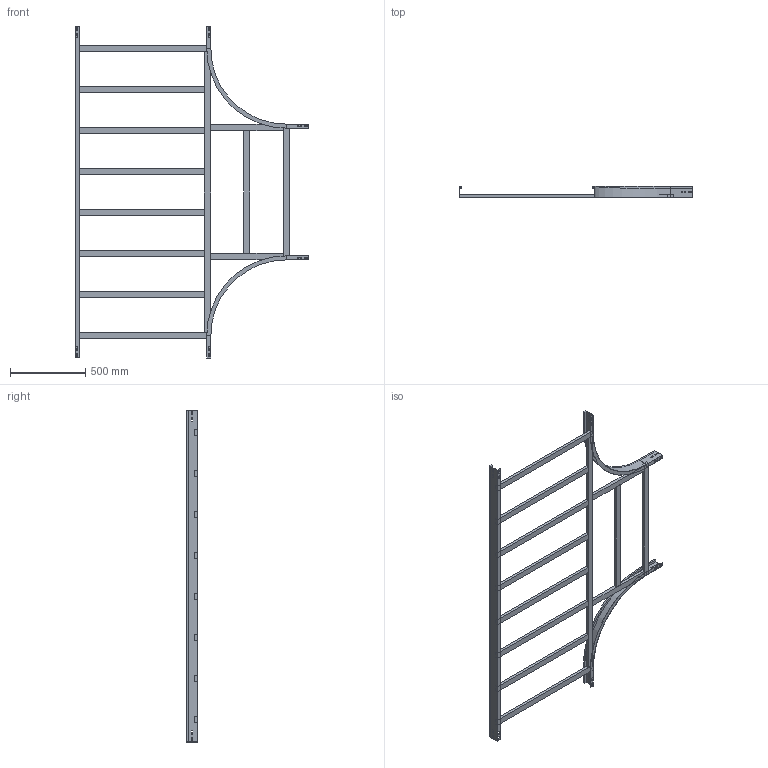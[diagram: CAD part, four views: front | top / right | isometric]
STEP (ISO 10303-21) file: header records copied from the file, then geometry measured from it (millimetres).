
FILE_DESCRIPTION (( 'STEP AP214' ), '1' );
FILE_NAME ('15B5C900.step', '2025-02-21T15:52:55', ( '' ), ( '' ), 'SwSTEP 2.0', 'SolidWorks 2023', '' );
FILE_SCHEMA (( 'AUTOMOTIVE_DESIGN' ));
Length unit declared in the file: millimetre
Products named in the file (8): TRAVERSINO_LONG._R500+900; TRAVERSINO_VERT_R500; TRAVERSINO_COPPIA_900; TRAVERSINO_900; LONGH.INTERNO 90°_H75_R500; TRAVERSINO_INTERMEDIO_R500+900; 15B5C900; LONGH.RETT_H75_R500+900
Assembly tree (16 placements, depth 2):
  15B5C900
    LONGH.INTERNO 90°_H75_R500  x2
    LONGH.RETT_H75_R500+900
    TRAVERSINO_900  x3
    TRAVERSINO_LONG._R500+900
    TRAVERSINO_INTERMEDIO_R500+900  x6
    TRAVERSINO_VERT_R500  x2
    TRAVERSINO_COPPIA_900
Bounding box: 1550 x 75 x 2200 mm (x, y, z)
Volume: 10996530.9 mm3; surface area: 2441378 mm2
Topology: 16 solids, 16 shells, 236 faces, 580 edges, 376 vertices
Faces by surface type: plane 228, cylinder 8
Entity records: 4225 total; most frequent: CARTESIAN_POINT 697, ORIENTED_EDGE 664, DIRECTION 638, EDGE_CURVE 332, LINE 324, VECTOR 324, VERTEX_POINT 216, EDGE_LOOP 162
